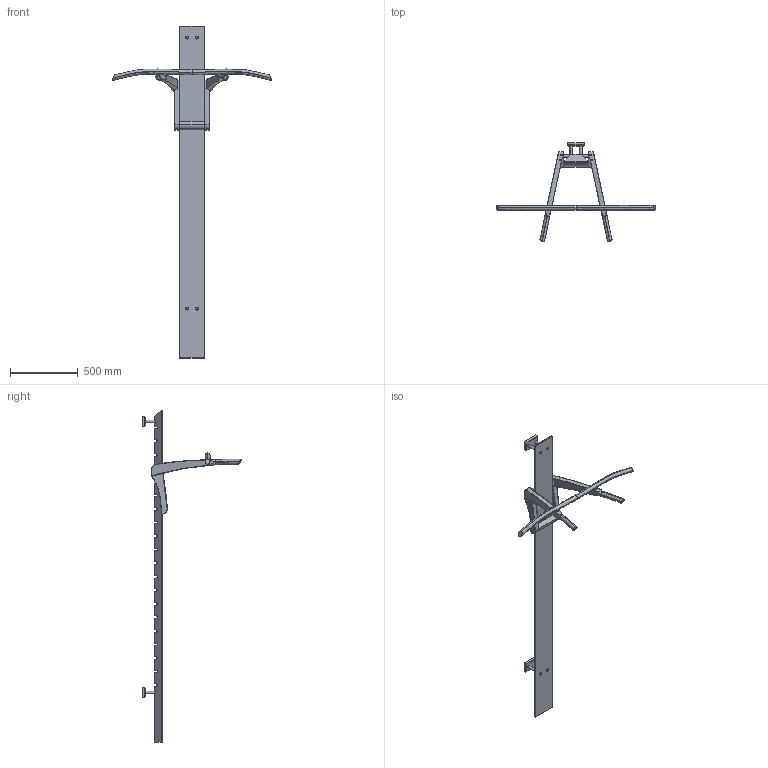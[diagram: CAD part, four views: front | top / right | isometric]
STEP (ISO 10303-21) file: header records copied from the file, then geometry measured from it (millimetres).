
FILE_DESCRIPTION(/* description */ (''),/* implementation_level */ '2;1');
FILE_NAME(/* name */ 'Eternal_Creek_3D_Model_BOW_Pull_Up_Dip_Station.step',/* time_stamp */ '2025-10-09T16:16:52+03:00',/* author */ (''),/* organization */ (''),/* preprocessor_version */ 'ST-DEVELOPER v20.1',/* originating_system */ 'Autodesk Translation Framework v14.17.0.0',/* authorisation */ '');
FILE_SCHEMA (('AUTOMOTIVE_DESIGN { 1 0 10303 214 3 1 1 }'));
Length unit declared in the file: millimetre
Products named in the file (21): 3D EXPORT - S - RAGA - SKER V02; SIDES; SIDE; HORIZONTAL; SIDE (1); HORI(Mirror); BAR; STRINGERS; STRINGER - FRONT; METAL STRINGER - BACK; METAL SUPPORTS; 3D EXPORT - S - RAGA - LENT V03; VERTICAL PLANK; METAL WALL SUPPORTS; METAL WALL SUPPORT; METAL WALL SUPPORT (1); METAL WALL SUPPORT (2); METAL WALL SUPPORT (3); MOUNTING BLOCKS; MOUNTING BLOCK; MOUNTING BLOCK (1)
Assembly tree (20 placements, depth 4):
  3D EXPORT - S - RAGA - SKER V02
    SIDES
      SIDE
        HORIZONTAL
      SIDE (1)
        HORI(Mirror)
    BAR
    STRINGERS
      STRINGER - FRONT
      METAL STRINGER - BACK
    METAL SUPPORTS
    3D EXPORT - S - RAGA - LENT V03
      VERTICAL PLANK
      METAL WALL SUPPORTS
        METAL WALL SUPPORT
        METAL WALL SUPPORT (1)
        METAL WALL SUPPORT (2)
        METAL WALL SUPPORT (3)
      MOUNTING BLOCKS
        MOUNTING BLOCK
        MOUNTING BLOCK (1)
Bounding box: 1179.08 x 728.81 x 2450 mm (x, y, z)
Volume: 25006870.7 mm3; surface area: 1736942.2 mm2
Topology: 18 solids, 26 shells, 528 faces, 1212 edges, 778 vertices
Faces by surface type: plane 216, cylinder 163, bspline 115, torus 28, sphere 6
Full cylindrical faces by diameter (mm): 4 x2, 8 x8, 10.5 x8, 11 x4, 14.1 x8, 19 x4, 19.6 x12, 20 x25
Entity records: 22887 total; most frequent: CARTESIAN_POINT 10958, ORIENTED_EDGE 2424, DIRECTION 2252, EDGE_CURVE 1212, AXIS2_PLACEMENT_3D 872, VERTEX_POINT 778, EDGE_LOOP 594, FACE_OUTER_BOUND 528
